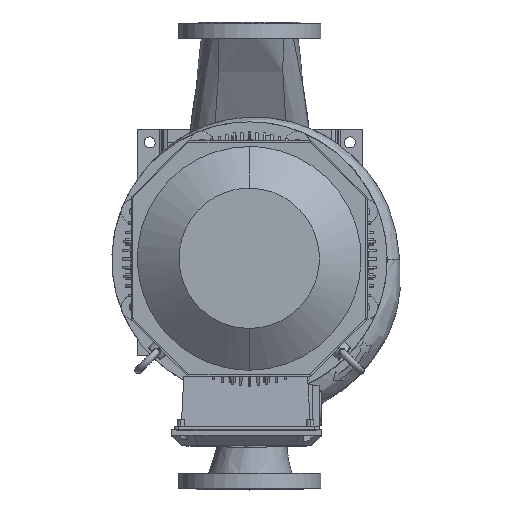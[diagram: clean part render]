
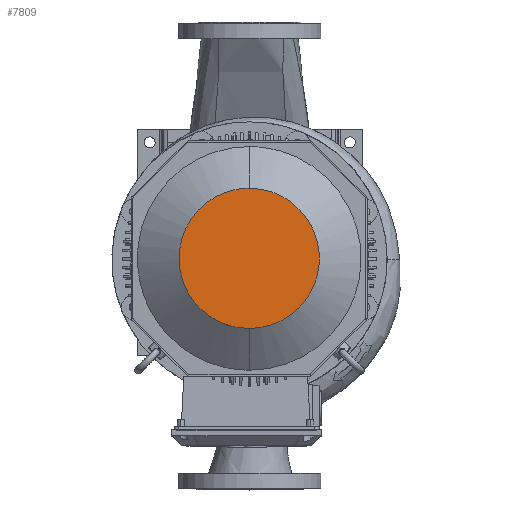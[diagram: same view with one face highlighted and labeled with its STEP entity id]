
A CAD part, top view. The second image highlights one B-rep face of the part: STEP entity #7809.
In plain terms, the highlighted free-form (B-spline) face has degree [1, 1] with [2, 2] control points.
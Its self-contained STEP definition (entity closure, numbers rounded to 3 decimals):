
#7809=ADVANCED_FACE('      F2',(#20685),#20686,.T.);
#7891=EDGE_CURVE('      E3',#20811,#20812,#20813,.T.);
#7895=EDGE_CURVE('      E3',#20812,#20811,#20817,.T.);
#20685=FACE_OUTER_BOUND('',#41443,.T.);
#20686=B_SPLINE_SURFACE_WITH_KNOTS('',1,1,((#41444,#41445),(#41446,#41447)),.UNSPECIFIED.,.F.,.F.,.F.,(2,2),(2,2),(0.044,0.955),(0.039,0.96),.UNSPECIFIED.);
#20811=VERTEX_POINT('',#41888);
#20812=VERTEX_POINT('',#41889);
#20813=(B_SPLINE_CURVE(2,(#41891,#41892,#41893,#41894,#41895),.UNSPECIFIED.,.F.,.F.)B_SPLINE_CURVE_WITH_KNOTS((3,2,3),(80.914,107.885,161.828),.UNSPECIFIED.)RATIONAL_B_SPLINE_CURVE((0.75,0.75,1.0,0.5,1.0))BOUNDED_CURVE()REPRESENTATION_ITEM('')GEOMETRIC_REPRESENTATION_ITEM()CURVE());
#20817=(B_SPLINE_CURVE(2,(#41909,#41910,#41911,#41912,#41913),.UNSPECIFIED.,.F.,.F.)B_SPLINE_CURVE_WITH_KNOTS((3,2,3),(0.0,53.943,80.914),.UNSPECIFIED.)RATIONAL_B_SPLINE_CURVE((1.0,0.5,1.0,0.75,0.75))BOUNDED_CURVE()REPRESENTATION_ITEM('')GEOMETRIC_REPRESENTATION_ITEM()CURVE());
#41443=EDGE_LOOP('',(#91537,#91538));
#41444=CARTESIAN_POINT('',(-63.355,165.897,-188.0));
#41445=CARTESIAN_POINT('',(-344.576,165.897,-188.0));
#41446=CARTESIAN_POINT('',(-63.355,-114.887,-188.0));
#41447=CARTESIAN_POINT('',(-344.576,-114.887,-188.0));
#41888=CARTESIAN_POINT('',(-204.061,165.425,-188.0));
#41889=CARTESIAN_POINT('',(-204.061,-114.868,-188.0));
#41891=CARTESIAN_POINT('',(-204.061,165.425,-188.0));
#41892=CARTESIAN_POINT('',(-284.975,165.425,-188.0));
#41893=CARTESIAN_POINT('',(-325.432,95.352,-188.0));
#41894=CARTESIAN_POINT('',(-446.802,-114.868,-188.0));
#41895=CARTESIAN_POINT('',(-204.061,-114.868,-188.0));
#41909=CARTESIAN_POINT('',(-204.061,-114.868,-188.0));
#41910=CARTESIAN_POINT('',(38.68,-114.868,-188.0));
#41911=CARTESIAN_POINT('',(-82.69,95.352,-188.0));
#41912=CARTESIAN_POINT('',(-123.147,165.425,-188.0));
#41913=CARTESIAN_POINT('',(-204.061,165.425,-188.0));
#91537=ORIENTED_EDGE('',*,*,#7895,.F.);
#91538=ORIENTED_EDGE('',*,*,#7891,.F.);
